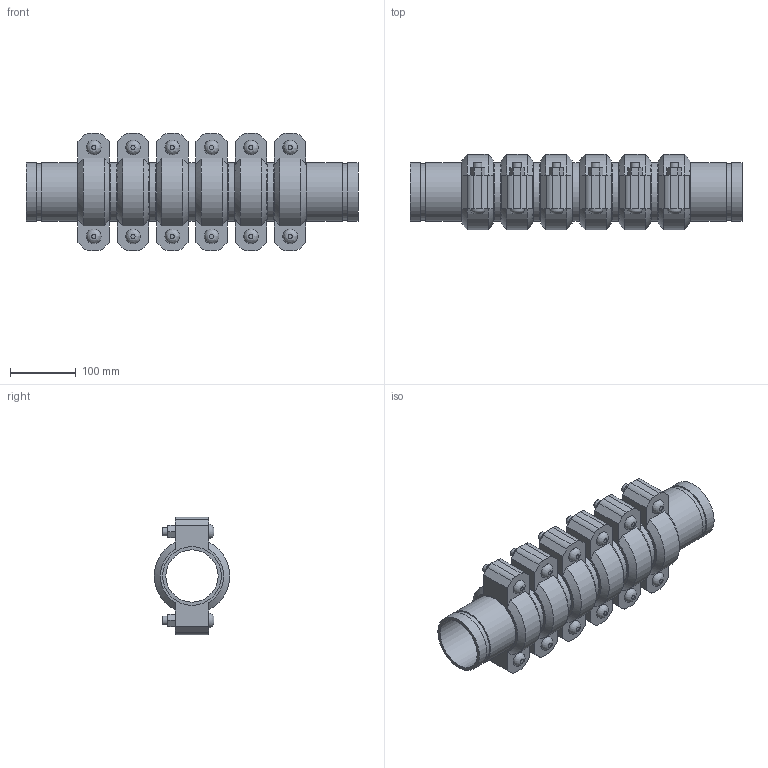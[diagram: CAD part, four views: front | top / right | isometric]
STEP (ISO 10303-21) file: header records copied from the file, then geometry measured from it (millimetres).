
FILE_DESCRIPTION(/* description */ ('VIC SS EXPANSION JOINT 6 COUPLINGS NEUTRAL STYLE 155P (OGS) (POTABLE WATER) ','CAx-IF Rec.Pracs.---Representation and Presentation of Product Manufacturing Information (PMI)---4.0---2014-10-13'),/* implementation_level */ '2;1');
FILE_NAME(/* name */ 'C:\Users\kkamble\AppData\Roaming\Autodesk\ApplicationPlugins\Victaulic.Temp\A292\Victaulic_SS_Expansion Joint_Neutral_6 Couplings_Style 155P (OGS)-Potable Water_6 Coup_Neut_3 (80).stp',/* time_stamp */ '2021-07-16T16:36:01+05:00',/* author */ ('kkamble'),/* organization */ ('Victaulic'),/* preprocessor_version */ 'ST-DEVELOPER v17.2',/* originating_system */ 'Autodesk Inventor 2019',/* authorisation */ '');
FILE_SCHEMA (('AP242_MANAGED_MODEL_BASED_3D_ENGINEERING_MIM_LF { 1 0 10303 442 1 1 4 }'));
Length unit declared in the file: inch
Products named in the file (4): 155-03.0; Nipple-03.0; Nipple-03.0_1; 075-03.0
Assembly tree (13 placements, depth 2):
  155-03.0
    Nipple-03.0  x2
    Nipple-03.0_1  x5
    075-03.0  x6
Bounding box: 503.17 x 113.88 x 177.8 mm (x, y, z)
Volume: 2558011.9 mm3; surface area: 656003.9 mm2
Topology: 13 solids, 25 shells, 426 faces, 1008 edges, 708 vertices
Faces by surface type: plane 258, cylinder 132, cone 24, bspline 12
Full cylindrical faces by diameter (mm): 12.7 x24, 14.605 x12, 79.35 x7, 82.55 x6, 84.938 x14, 88.9 x33
Entity records: 2817 total; most frequent: CARTESIAN_POINT 497, DIRECTION 469, ORIENTED_EDGE 386, EDGE_CURVE 193, AXIS2_PLACEMENT_3D 188, VERTEX_POINT 138, EDGE_LOOP 107, LINE 93
